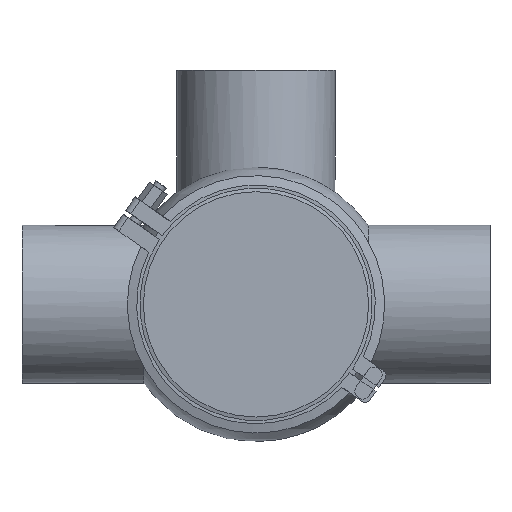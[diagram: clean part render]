
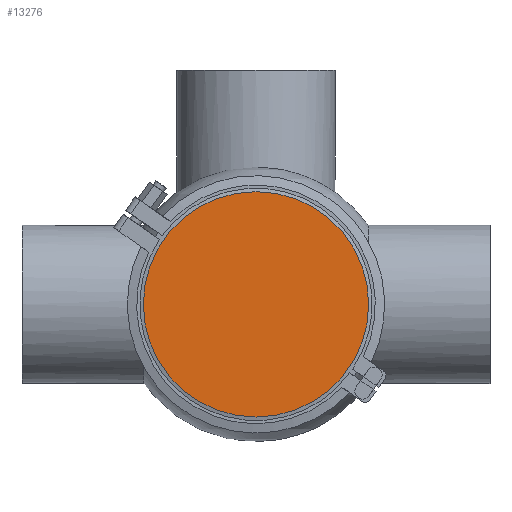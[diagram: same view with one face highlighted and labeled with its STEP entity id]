
A CAD part, front view. The second image highlights one B-rep face of the part: STEP entity #13276.
In plain terms, the highlighted planar face has unit normal (0, -1, 0).
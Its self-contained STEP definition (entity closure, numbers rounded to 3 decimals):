
#147 = EDGE_LOOP ( 'NONE', ( #10788 ) ) ;
#1810 = CARTESIAN_POINT ( 'NONE',  ( 0., 0., 0. ) ) ;
#2825 = AXIS2_PLACEMENT_3D ( 'NONE', #11827, #18529, #20281 ) ;
#4924 = AXIS2_PLACEMENT_3D ( 'NONE', #1810, #8388, #18571 ) ;
#8388 = DIRECTION ( 'NONE',  ( 0., 1., 0. ) ) ;
#9439 = CIRCLE ( 'NONE', #4924, 72.25 ) ;
#10788 = ORIENTED_EDGE ( 'NONE', *, *, #20260, .F. ) ;
#11827 = CARTESIAN_POINT ( 'NONE',  ( -72.25, 0., 0. ) ) ;
#13276 = ADVANCED_FACE ( 'NONE', ( #13478 ), #20170, .T. ) ;
#13478 = FACE_OUTER_BOUND ( 'NONE', #147, .T. ) ;
#18529 = DIRECTION ( 'NONE',  ( 0., -1., 0. ) ) ;
#18571 = DIRECTION ( 'NONE',  ( 0., 0., 1. ) ) ;
#19886 = CARTESIAN_POINT ( 'NONE',  ( 0., 0., 72.25 ) ) ;
#20170 = PLANE ( 'NONE',  #2825 ) ;
#20260 = EDGE_CURVE ( 'NONE', #21522, #21522, #9439, .T. ) ;
#20281 = DIRECTION ( 'NONE',  ( 0., 0., -1. ) ) ;
#21522 = VERTEX_POINT ( 'NONE', #19886 ) ;
